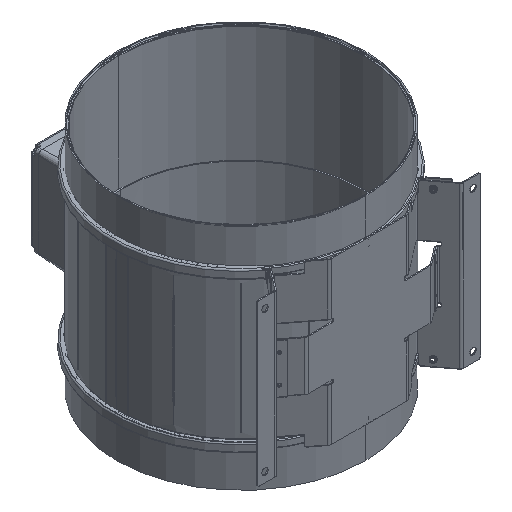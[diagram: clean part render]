
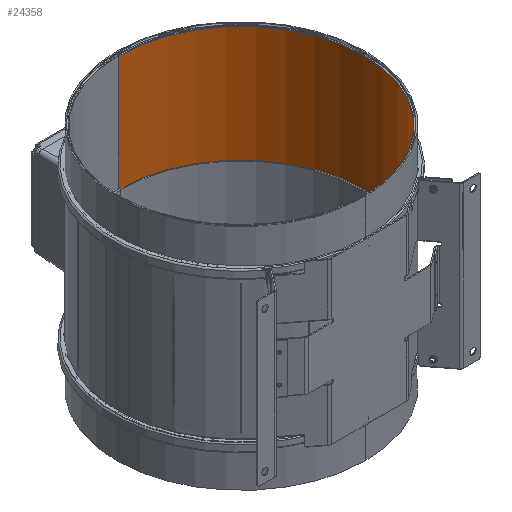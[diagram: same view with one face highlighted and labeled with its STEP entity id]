
A CAD part, isometric view. The second image highlights one B-rep face of the part: STEP entity #24358.
In plain terms, the highlighted cylindrical face has radius 173 mm (diameter 346 mm), a partial arc.
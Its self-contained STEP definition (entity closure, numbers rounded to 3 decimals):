
#1731 = VERTEX_POINT ( 'NONE', #14413 ) ;
#1893 = VERTEX_POINT ( 'NONE', #14585 ) ;
#6192 = CARTESIAN_POINT ( 'NONE',  ( 0., 173., -99.197 ) ) ;
#7410 = ORIENTED_EDGE ( 'NONE', *, *, #10267, .F. ) ;
#7421 = ORIENTED_EDGE ( 'NONE', *, *, #10336, .T. ) ;
#7422 = ORIENTED_EDGE ( 'NONE', *, *, #10339, .T. ) ;
#7437 = ORIENTED_EDGE ( 'NONE', *, *, #26822, .F. ) ;
#7919 = ORIENTED_EDGE ( 'NONE', *, *, #26823, .T. ) ;
#10267 = EDGE_CURVE ( 'NONE', #32446, #20929, #17553, .T. ) ;
#10336 = EDGE_CURVE ( 'NONE', #1731, #1893, #17641, .T. ) ;
#10339 = EDGE_CURVE ( 'NONE', #1893, #12843, #17644, .T. ) ;
#10563 = CARTESIAN_POINT ( 'NONE',  ( 173., 0., -99.197 ) ) ;
#12843 = VERTEX_POINT ( 'NONE', #10563 ) ;
#14413 = CARTESIAN_POINT ( 'NONE',  ( 0., -173., -263.167 ) ) ;
#14585 = CARTESIAN_POINT ( 'NONE',  ( 0., -173., -99.197 ) ) ;
#16143 = FACE_OUTER_BOUND ( 'NONE', #35839, .T. ) ;
#16147 = CYLINDRICAL_SURFACE ( 'NONE', #40835, 173. ) ;
#16731 = CIRCLE ( 'NONE', #29466, 173. ) ;
#16733 = CIRCLE ( 'NONE', #29465, 173. ) ;
#17553 = LINE ( 'NONE', #33875, #17555 ) ;
#17555 = VECTOR ( 'NONE', #33860, 1000. ) ;
#17641 = LINE ( 'NONE', #24674, #17645 ) ;
#17644 = CIRCLE ( 'NONE', #27827, 173. ) ;
#17645 = VECTOR ( 'NONE', #24676, 1000. ) ;
#20929 = VERTEX_POINT ( 'NONE', #6192 ) ;
#21450 = CARTESIAN_POINT ( 'NONE',  ( 0., 173., -263.167 ) ) ;
#22488 = DIRECTION ( 'NONE',  ( 0., 0., 1. ) ) ;
#22490 = CARTESIAN_POINT ( 'NONE',  ( 0., 0., -99.197 ) ) ;
#22499 = DIRECTION ( 'NONE',  ( 1., 0., 0. ) ) ;
#22574 = DIRECTION ( 'NONE',  ( 0., 0., 1. ) ) ;
#22576 = DIRECTION ( 'NONE',  ( 0., -1., 0. ) ) ;
#23149 = CARTESIAN_POINT ( 'NONE',  ( 0., 0., -263.167 ) ) ;
#24358 = ADVANCED_FACE ( 'NONE', ( #16143 ), #16147, .F. ) ;
#24659 = DIRECTION ( 'NONE',  ( 1., 0., 0. ) ) ;
#24660 = DIRECTION ( 'NONE',  ( 0., 0., 1. ) ) ;
#24661 = CARTESIAN_POINT ( 'NONE',  ( 0., 0., -99.197 ) ) ;
#24674 = CARTESIAN_POINT ( 'NONE',  ( 0., -173., 0. ) ) ;
#24676 = DIRECTION ( 'NONE',  ( 0., 0., 1. ) ) ;
#26822 = EDGE_CURVE ( 'NONE', #1731, #32446, #16731, .T. ) ;
#26823 = EDGE_CURVE ( 'NONE', #12843, #20929, #16733, .T. ) ;
#27827 = AXIS2_PLACEMENT_3D ( 'NONE', #24661, #24660, #24659 ) ;
#29465 = AXIS2_PLACEMENT_3D ( 'NONE', #22490, #22488, #22499 ) ;
#29466 = AXIS2_PLACEMENT_3D ( 'NONE', #23149, #22574, #22576 ) ;
#32446 = VERTEX_POINT ( 'NONE', #21450 ) ;
#33860 = DIRECTION ( 'NONE',  ( 0., 0., 1. ) ) ;
#33875 = CARTESIAN_POINT ( 'NONE',  ( 0., 173., 0. ) ) ;
#35839 = EDGE_LOOP ( 'NONE', ( #7410, #7437, #7421, #7422, #7919 ) ) ;
#36812 = DIRECTION ( 'NONE',  ( 0., -1., 0. ) ) ;
#36818 = DIRECTION ( 'NONE',  ( 0., 0., 1. ) ) ;
#36821 = CARTESIAN_POINT ( 'NONE',  ( 0., 0., 0. ) ) ;
#40835 = AXIS2_PLACEMENT_3D ( 'NONE', #36821, #36818, #36812 ) ;
